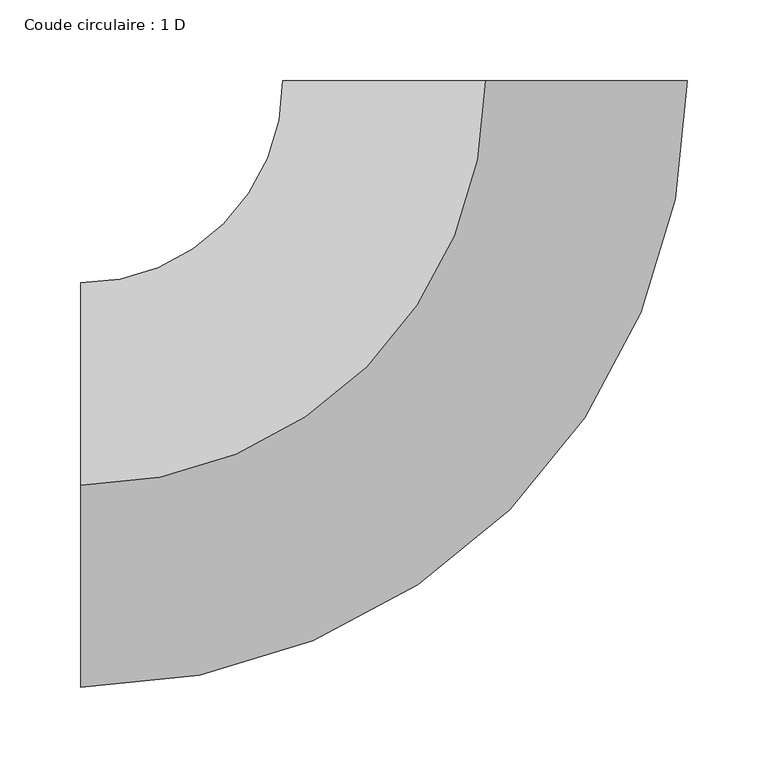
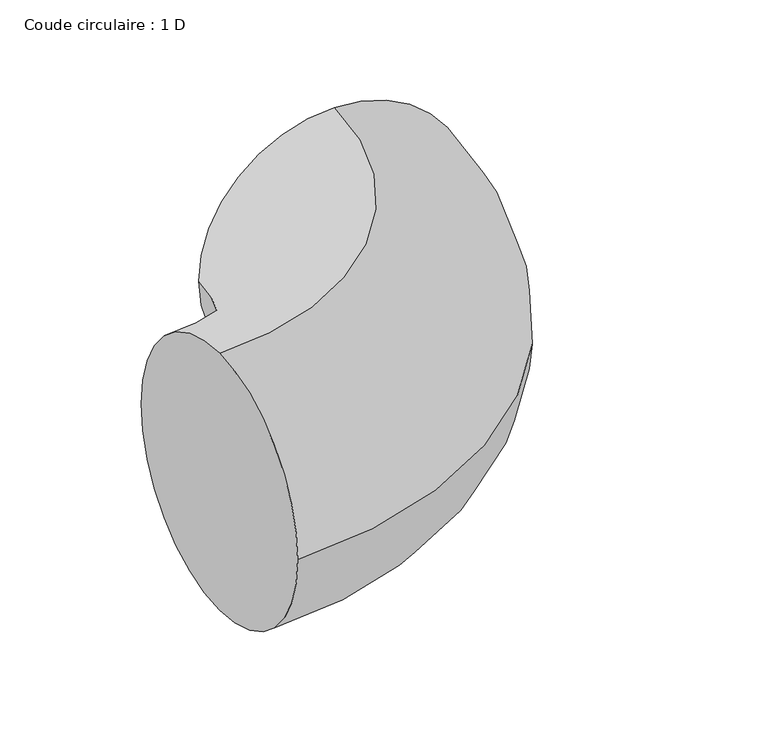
"""IFC4 building model written with IfcOpenShell, lengths in millimetres: duct fitting geometry, Coude circulaire : 1 D."""

from ifc_helpers import new_model, si_unit, point, frame, origin, place, context, project, spatial, circle_curve, ellipse_curve, trimmed, source, transform, mapped, element, save
from ifc_brep_helpers import plane_surface, revolved_surface, advanced_brep


def coude_circulaire_1_d_0986e44b(model_context):
    return source(origin(), model_context, "Body", "AdvancedBrep", [
        advanced_brep(
        [(-249.9982836, 0.0, 125.0), (-249.9982836, 125.0, 0.0), (-249.9982836, 0.0, -125.0), (-249.9982836, -125.0, 0.0), (0.0017164, 249.9982836, 125.0), (125.0017164, 249.9974253, 0.0), (0.0017164, 249.9982836, -125.0), (-124.9982836, 249.9991418, 0.0)],
        [
            (0, 1, circle_curve(frame((-249.9982836, 0.0, 0.0), z_axis=(-1.0, 0.0, 0.0), x_axis=(0.0, 1.0, 0.0)), 125.0)),
            (1, 2, circle_curve(frame((-249.9982836, 0.0, 0.0), z_axis=(-1.0, 0.0, 0.0), x_axis=(0.0, 1.0, 0.0)), 125.0)),
            (2, 3, circle_curve(frame((-249.9982836, 0.0, 0.0), z_axis=(-1.0, 0.0, 0.0), x_axis=(0.0, 1.0, 0.0)), 125.0)),
            (3, 0, circle_curve(frame((-249.9982836, 0.0, 0.0), z_axis=(-1.0, 0.0, 0.0), x_axis=(0.0, 1.0, 0.0)), 125.0)),
            (4, 5, circle_curve(frame((0.0017164, 249.9982836, 0.0), z_axis=(6.865766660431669e-06, 0.9999999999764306, 0.0), x_axis=(-0.9999999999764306, 6.865766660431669e-06, 0.0)), 125.0)),
            (5, 6, circle_curve(frame((0.0017164, 249.9982836, 0.0), z_axis=(6.865766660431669e-06, 0.9999999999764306, 0.0), x_axis=(-0.9999999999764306, 6.865766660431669e-06, 0.0)), 125.0)),
            (6, 7, circle_curve(frame((0.0017164, 249.9982836, 0.0), z_axis=(6.865766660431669e-06, 0.9999999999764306, 0.0), x_axis=(-0.9999999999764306, 6.865766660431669e-06, 0.0)), 125.0)),
            (7, 4, circle_curve(frame((0.0017164, 249.9982836, 0.0), z_axis=(6.865766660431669e-06, 0.9999999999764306, 0.0), x_axis=(-0.9999999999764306, 6.865766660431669e-06, 0.0)), 125.0)),
            (7, 1, circle_curve(frame((-249.9982836, 250.0, 0.0), z_axis=(0.0, 0.0, -1.0), x_axis=(0.0, -1.0, 0.0)), 125.0)),
            (0, 4, circle_curve(frame((-249.9982836, 250.0, 125.0), z_axis=(0.0, 0.0, 1.0), x_axis=(0.0, -1.0, 0.0)), 250.0)),
            (6, 2, circle_curve(frame((-249.9982836, 250.0, -125.0), z_axis=(0.0, 0.0, -1.0), x_axis=(0.0, -1.0, 0.0)), 250.0)),
            (5, 3, circle_curve(frame((-249.9982836, 250.0, 0.0), z_axis=(0.0, 0.0, -1.0), x_axis=(0.0, -1.0, 0.0)), 375.0)),
        ],
        [
            plane_surface(frame((-249.9982836, 0.0, 0.0), z_axis=(-1.0, 0.0, 0.0), x_axis=(0.0, 0.0, 1.0))),
            plane_surface(frame((0.0017164, 249.9982836, 0.0), z_axis=(6.865766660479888e-06, 0.9999999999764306, 0.0), x_axis=(0.0, 0.0, 1.0))),
            revolved_surface(trimmed(ellipse_curve(frame((-249.9982836, 0.0, 0.0), z_axis=(-1.0, 0.0, 0.0), x_axis=(0.0, 1.0, 0.0)), 125.0, 125.0), [point((-249.9982836, 0.0, 125.0))], [point((-249.9982836, 125.0, 0.0))], True, "CARTESIAN"), (-249.9982836, 250.0, 0.0), (0.0, 0.0, 1.0)),
            revolved_surface(trimmed(ellipse_curve(frame((-249.9982836, 0.0, 0.0), z_axis=(-1.0, 0.0, 0.0), x_axis=(0.0, 1.0, 0.0)), 125.0, 125.0), [point((-249.9982836, 125.0, 0.0))], [point((-249.9982836, 0.0, -125.0))], True, "CARTESIAN"), (-249.9982836, 250.0, 0.0), (0.0, 0.0, 1.0)),
            revolved_surface(trimmed(ellipse_curve(frame((-249.9982836, 0.0, 0.0), z_axis=(-1.0, 0.0, 0.0), x_axis=(0.0, 1.0, 0.0)), 125.0, 125.0), [point((-249.9982836, 0.0, -125.0))], [point((-249.9982836, -125.0, 0.0))], True, "CARTESIAN"), (-249.9982836, 250.0, 0.0), (0.0, 0.0, 1.0)),
            revolved_surface(trimmed(ellipse_curve(frame((-249.9982836, 0.0, 0.0), z_axis=(-1.0, 0.0, 0.0), x_axis=(0.0, 1.0, 0.0)), 125.0, 125.0), [point((-249.9982836, -125.0, 0.0))], [point((-249.9982836, 0.0, 125.0))], True, "CARTESIAN"), (-249.9982836, 250.0, 0.0), (0.0, 0.0, 1.0)),
        ],
        [
            (0, [[1, 2, 3, 4]]),
            (1, [[5, 6, 7, 8]]),
            (2, [[9, -1, 10, -8]]),
            (3, [[11, -2, -9, -7]]),
            (4, [[12, -3, -11, -6]]),
            (5, [[-10, -4, -12, -5]]),
        ],
    ),
    ])


if __name__ == "__main__":
    model = new_model("IFC4")
    model_context = context("Model", 3, world=origin())
    ifc_project = project(units=[si_unit("LENGTHUNIT", "METRE", prefix="MILLI")], contexts=[model_context])
    site = spatial("IfcSite", under=ifc_project)
    building = spatial("IfcBuilding", under=site)
    placement = place(None, origin())
    coude_circulaire_1_d_shape = coude_circulaire_1_d_0986e44b(model_context)
    element("IfcDuctFitting", 1, ObjectType="Coude circulaire : 1 D", at=placement, inside=building, context=model_context, shape_type="MappedRepresentation", body=[
        mapped(coude_circulaire_1_d_shape, transform((0.0, 0.0, 0.0), x_axis=(1.0, 0.0, 0.0), y_axis=(0.0, 1.0, 0.0), z_axis=(0.0, 0.0, 1.0))),
    ])
    save(model, "model.ifc")
